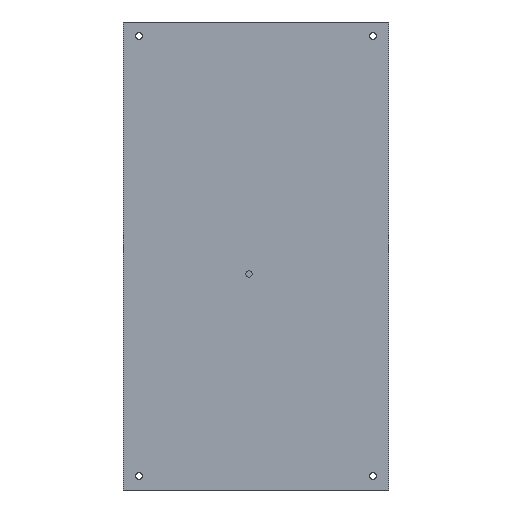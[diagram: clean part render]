
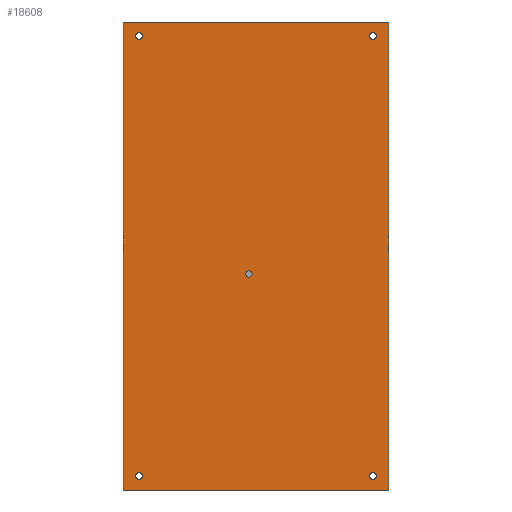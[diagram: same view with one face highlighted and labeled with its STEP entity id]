
A CAD part, front view. The second image highlights one B-rep face of the part: STEP entity #18608.
In plain terms, the highlighted planar face has unit normal (0, -1, 0).
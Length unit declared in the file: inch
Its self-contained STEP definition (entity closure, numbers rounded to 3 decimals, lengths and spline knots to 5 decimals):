
#1798=LINE('',#31623,#3264);
#1800=LINE('',#31627,#3266);
#1803=LINE('',#31632,#3269);
#1808=LINE('',#31669,#3274);
#3264=VECTOR('',#25846,0.3937);
#3266=VECTOR('',#25850,0.3937);
#3269=VECTOR('',#25855,0.3937);
#3274=VECTOR('',#25906,0.3937);
#3603=FACE_BOUND('',#6395,.T.);
#3604=FACE_BOUND('',#6396,.T.);
#3605=FACE_BOUND('',#6397,.T.);
#3606=FACE_BOUND('',#6398,.T.);
#3607=FACE_BOUND('',#6399,.T.);
#4992=FACE_OUTER_BOUND('',#6394,.T.);
#6394=EDGE_LOOP('',(#15691,#15692,#15693,#15694));
#6395=EDGE_LOOP('',(#15695));
#6396=EDGE_LOOP('',(#15696));
#6397=EDGE_LOOP('',(#15697));
#6398=EDGE_LOOP('',(#15698));
#6399=EDGE_LOOP('',(#15699));
#7151=CIRCLE('',#20559,0.07874);
#7152=CIRCLE('',#20561,0.08465);
#7154=CIRCLE('',#20564,0.08465);
#7156=CIRCLE('',#20567,0.08465);
#7158=CIRCLE('',#20570,0.08465);
#8633=VERTEX_POINT('',#31620);
#8634=VERTEX_POINT('',#31622);
#8635=VERTEX_POINT('',#31626);
#8636=VERTEX_POINT('',#31631);
#8637=VERTEX_POINT('',#31641);
#8638=VERTEX_POINT('',#31644);
#8640=VERTEX_POINT('',#31649);
#8642=VERTEX_POINT('',#31654);
#8644=VERTEX_POINT('',#31659);
#10994=EDGE_CURVE('',#8634,#8633,#1798,.T.);
#10996=EDGE_CURVE('',#8635,#8634,#1800,.T.);
#10999=EDGE_CURVE('',#8636,#8635,#1803,.T.);
#11001=EDGE_CURVE('',#8637,#8637,#7151,.T.);
#11002=EDGE_CURVE('',#8638,#8638,#7152,.T.);
#11004=EDGE_CURVE('',#8640,#8640,#7154,.T.);
#11006=EDGE_CURVE('',#8642,#8642,#7156,.T.);
#11008=EDGE_CURVE('',#8644,#8644,#7158,.T.);
#11013=EDGE_CURVE('',#8633,#8636,#1808,.T.);
#15691=ORIENTED_EDGE('',*,*,#10996,.T.);
#15692=ORIENTED_EDGE('',*,*,#10994,.T.);
#15693=ORIENTED_EDGE('',*,*,#11013,.T.);
#15694=ORIENTED_EDGE('',*,*,#10999,.T.);
#15695=ORIENTED_EDGE('',*,*,#11001,.T.);
#15696=ORIENTED_EDGE('',*,*,#11002,.T.);
#15697=ORIENTED_EDGE('',*,*,#11004,.T.);
#15698=ORIENTED_EDGE('',*,*,#11006,.T.);
#15699=ORIENTED_EDGE('',*,*,#11008,.T.);
#16432=PLANE('',#20575);
#18608=ADVANCED_FACE('',(#4992,#3603,#3604,#3605,#3606,#3607),#16432,.T.);
#20559=AXIS2_PLACEMENT_3D('',#31642,#25871,#25872);
#20561=AXIS2_PLACEMENT_3D('',#31645,#25875,#25876);
#20564=AXIS2_PLACEMENT_3D('',#31650,#25881,#25882);
#20567=AXIS2_PLACEMENT_3D('',#31655,#25887,#25888);
#20570=AXIS2_PLACEMENT_3D('',#31660,#25893,#25894);
#20575=AXIS2_PLACEMENT_3D('',#31670,#25907,#25908);
#25846=DIRECTION('',(0.,0.,-1.));
#25850=DIRECTION('',(-1.,0.,0.));
#25855=DIRECTION('',(0.,0.,1.));
#25871=DIRECTION('center_axis',(0.,1.,0.));
#25872=DIRECTION('ref_axis',(1.,0.,0.));
#25875=DIRECTION('center_axis',(0.,1.,0.));
#25876=DIRECTION('ref_axis',(1.,0.,0.));
#25881=DIRECTION('center_axis',(0.,1.,0.));
#25882=DIRECTION('ref_axis',(1.,0.,0.));
#25887=DIRECTION('center_axis',(0.,1.,0.));
#25888=DIRECTION('ref_axis',(1.,0.,0.));
#25893=DIRECTION('center_axis',(0.,1.,0.));
#25894=DIRECTION('ref_axis',(1.,0.,0.));
#25906=DIRECTION('',(1.,0.,0.));
#25907=DIRECTION('center_axis',(0.,-1.,0.));
#25908=DIRECTION('ref_axis',(0.,0.,-1.));
#31620=CARTESIAN_POINT('',(-3.71587,-0.476,-5.9252));
#31622=CARTESIAN_POINT('',(-3.71587,-0.476,5.88583));
#31623=CARTESIAN_POINT('',(-3.71587,-0.476,5.88583));
#31626=CARTESIAN_POINT('',(2.97705,-0.476,5.88583));
#31627=CARTESIAN_POINT('',(2.97705,-0.476,5.88583));
#31631=CARTESIAN_POINT('',(2.97705,-0.476,-5.9252));
#31632=CARTESIAN_POINT('',(2.97705,-0.476,-5.9252));
#31641=CARTESIAN_POINT('',(-0.46783,-0.476,-0.47244));
#31642=CARTESIAN_POINT('Origin',(-0.54657,-0.476,
-0.47244));
#31644=CARTESIAN_POINT('',(2.4987,-0.476,-5.57087));
#31645=CARTESIAN_POINT('Origin',(2.58335,-0.476,-5.57087));
#31649=CARTESIAN_POINT('',(-3.40681,-0.476,5.5315));
#31650=CARTESIAN_POINT('Origin',(-3.32216,-0.476,5.5315));
#31654=CARTESIAN_POINT('',(-3.40681,-0.476,-5.57087));
#31655=CARTESIAN_POINT('Origin',(-3.32216,-0.476,-5.57087));
#31659=CARTESIAN_POINT('',(2.4987,-0.476,5.5315));
#31660=CARTESIAN_POINT('Origin',(2.58335,-0.476,5.5315));
#31669=CARTESIAN_POINT('',(-3.71587,-0.476,-5.9252));
#31670=CARTESIAN_POINT('Origin',(-0.36941,-0.476,
-0.01969));
